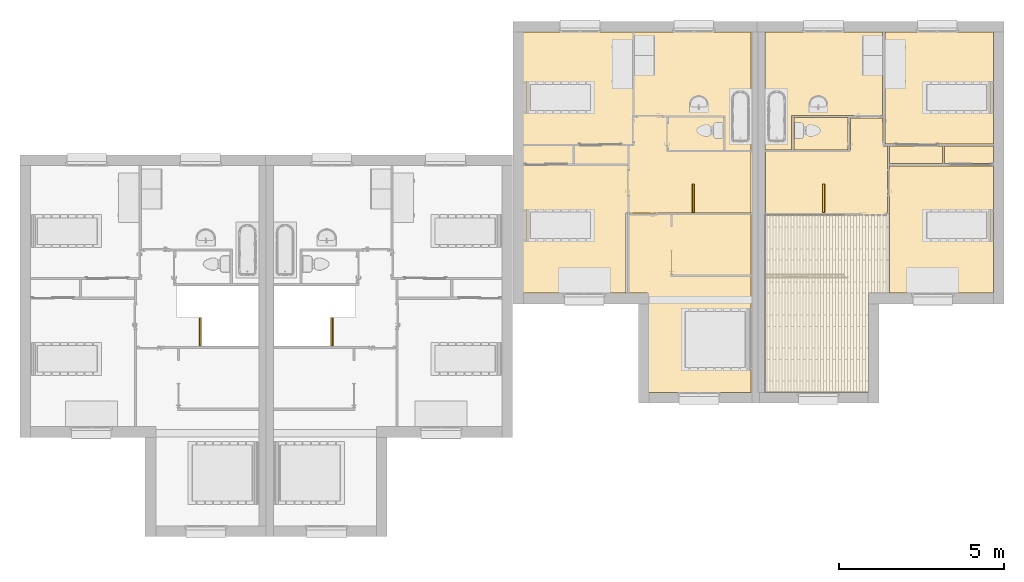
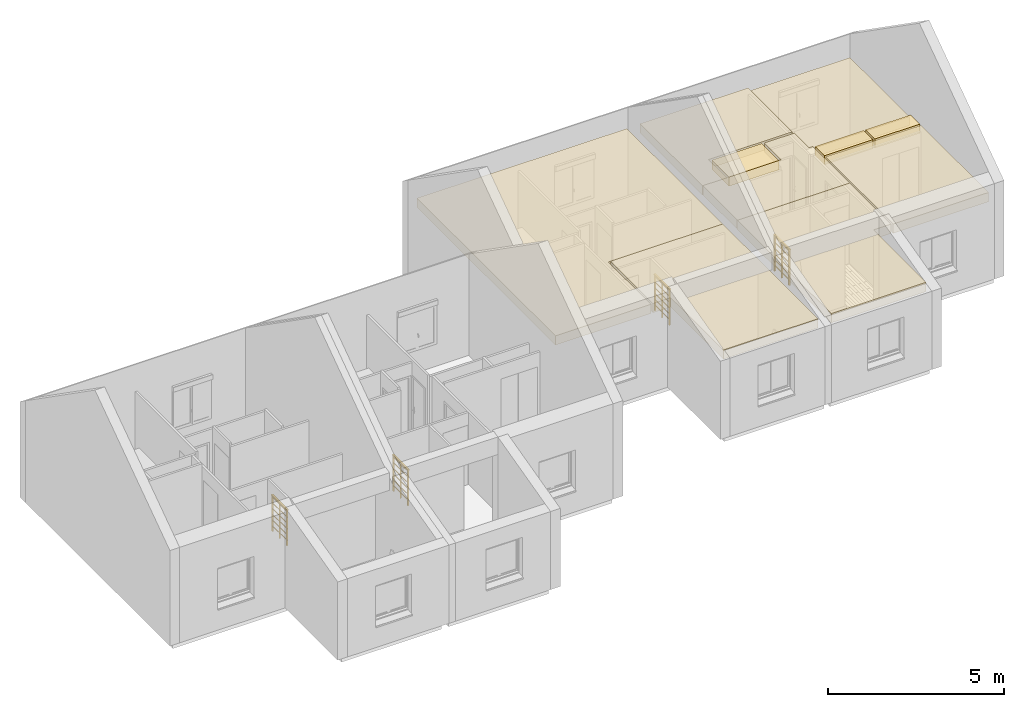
# One storey, part 41 of 50: 10 coverings, 4 railings.
"""IFC2X3 building model written with IfcOpenShell, lengths in metres."""

from ifc_helpers import new_model, entity, si_unit, converted_unit, derived_unit, direction, frame, frame_2d, origin, origin_2d_with_axis, place, context, subcontext, project, spatial, polyline, rectangle, circle, outline, extrude, material, material_list, layer, layer_set, layer_usage, element, save


model = new_model("IFC2X3")

# Units and contexts
model_context = context("Model", 3, precision=1e-05, world=origin(), true_north=direction((6.12303176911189e-17, 1.0)))
context_of_model = context(None, 3, precision=1e-05, world=origin(), true_north=direction((6.12303176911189e-17, 1.0)))
body_context = subcontext(model_context, "Body", "Model", "MODEL_VIEW")
ifc_project = project(units=[si_unit("LENGTHUNIT", "METRE"), si_unit("AREAUNIT", "SQUARE_METRE"), si_unit("VOLUMEUNIT", "CUBIC_METRE"), converted_unit("PLANEANGLEUNIT", "DEGREE", entity("IfcRatioMeasure", 0.0174532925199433), si_unit("PLANEANGLEUNIT", "RADIAN"), dimensions=[0, 0, 0, 0, 0, 0, 0]), si_unit("MASSUNIT", "GRAM", prefix="KILO"), si_unit("TIMEUNIT", "SECOND"), si_unit("FREQUENCYUNIT", "HERTZ"), si_unit("THERMODYNAMICTEMPERATUREUNIT", "DEGREE_CELSIUS"), derived_unit("THERMALTRANSMITTANCEUNIT", [(si_unit("MASSUNIT", "GRAM", prefix="KILO"), 1), (si_unit("THERMODYNAMICTEMPERATUREUNIT", "KELVIN"), -1), (si_unit("TIMEUNIT", "SECOND"), -3)]), derived_unit("VOLUMETRICFLOWRATEUNIT", [(si_unit("LENGTHUNIT", "METRE"), 3), (si_unit("TIMEUNIT", "SECOND"), -1)]), si_unit("ELECTRICCURRENTUNIT", "AMPERE"), si_unit("ELECTRICVOLTAGEUNIT", "VOLT"), si_unit("POWERUNIT", "WATT"), si_unit("FORCEUNIT", "NEWTON", prefix="KILO"), si_unit("ILLUMINANCEUNIT", "LUX"), si_unit("LUMINOUSFLUXUNIT", "LUMEN"), si_unit("LUMINOUSINTENSITYUNIT", "CANDELA"), si_unit("PRESSUREUNIT", "PASCAL")], contexts=[model_context, context_of_model])

# Site, building, storey
site_placement = place(None, origin())
site = spatial("IfcSite", under=ifc_project, at=site_placement, Name="Surface", CompositionType="ELEMENT")
building_placement = place(site_placement, origin())
building = spatial("IfcBuilding", under=site, at=building_placement, CompositionType="ELEMENT")
storey_placement = place(building_placement, frame((0.0, 0.0, 2.82)))
storey = spatial("IfcBuildingStorey", under=building, at=storey_placement, Name="ETAGE", CompositionType="ELEMENT", Elevation=2.82)

# Coverings
ifc_material_1 = material(Name="Isolant")
ifc_layer_1 = layer(ifc_material_1, 0.3)
ifc_material_2 = material(Name="Faux-Plafond par Défaut")
ifc_layer_2 = layer(ifc_material_2, 0.02)
ifc_layer_set = layer_set([ifc_layer_1, ifc_layer_2], Name="Plafond composé:Plafond avec isolation")
ifc_layer_usage_1 = layer_usage(ifc_layer_set, "AXIS3", "NEGATIVE", 0.0)
covering_1_placement = place(storey_placement, origin())
element("IfcCovering", 1, at=covering_1_placement, inside=storey, material=ifc_layer_usage_1, Name="Plafond composé:Plafond avec isolation", ObjectType="Plafond composé:Plafond avec isolation", PredefinedType="CEILING", context=body_context, shape_type="SweptSolid", body=[
    extrude(outline(polyline([(-4.45666666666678, -3.3488419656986), (3.44333333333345, -3.3488419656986), (3.44333333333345, -0.210579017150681), (1.01333333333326, -0.210579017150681), (1.01333333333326, 3.55942098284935), (-4.45666666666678, 3.55942098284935), (-4.45666666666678, -3.3488419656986)])), frame((79.9373647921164, 87.690857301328, 2.5), z_axis=(0.0, 0.0, 1.0), x_axis=(0.0, -1.0, 0.0)), (0.0, 0.0, 1.0), 0.32),
])
ifc_layer_usage_2 = layer_usage(ifc_layer_set, "AXIS3", "NEGATIVE", 0.0)
covering_2_placement = place(storey_placement, origin())
element("IfcCovering", 2, at=covering_2_placement, inside=storey, material=ifc_layer_usage_2, Name="Plafond composé:Plafond avec isolation", ObjectType="Plafond composé:Plafond avec isolation", PredefinedType="CEILING", context=body_context, shape_type="SweptSolid", body=[
    extrude(outline(polyline([(-2.62000000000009, -1.42596113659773), (-0.189999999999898, -1.42596113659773), (-0.189999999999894, -0.84596113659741), (2.80999999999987, -0.845961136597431), (2.8099999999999, 2.27192227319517), (-2.62000000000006, 2.27192227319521), (-2.62000000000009, -1.42596113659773)])), frame((81.2227469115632, 84.0575239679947, 2.5), z_axis=(0.0, 0.0, 1.0), x_axis=(0.0, -1.0, 0.0)), (0.0, 0.0, 1.0), 0.32),
])
ifc_layer_usage_3 = layer_usage(ifc_layer_set, "AXIS3", "NEGATIVE", 0.0)
covering_3_placement = place(storey_placement, origin())
element("IfcCovering", 3, at=covering_3_placement, inside=storey, material=ifc_layer_usage_3, Name="Plafond composé:Plafond avec isolation", ObjectType="Plafond composé:Plafond avec isolation", PredefinedType="CEILING", context=body_context, shape_type="SweptSolid", body=[
    extrude(outline(polyline([(-2.02777314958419, -1.45096113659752), (1.53554629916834, -1.45096113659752), (1.53554629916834, -0.650577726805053), (0.492226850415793, -0.650577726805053), (0.492226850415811, 2.10153886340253), (-2.02777314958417, 2.10153886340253), (-2.02777314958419, -1.45096113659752)])), frame((85.3773635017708, 90.1197508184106, 2.52), z_axis=(0.0, 0.0, 1.0), x_axis=(0.0, -1.0, 0.0)), (0.0, 0.0, 1.0), 0.32),
])
ifc_layer_usage_4 = layer_usage(ifc_layer_set, "AXIS3", "NEGATIVE", 0.0)
covering_4_placement = place(storey_placement, origin())
element("IfcCovering", 4, at=covering_4_placement, inside=storey, material=ifc_layer_usage_4, Name="Plafond composé:Plafond avec isolation", ObjectType="Plafond composé:Plafond avec isolation", PredefinedType="CEILING", context=body_context, shape_type="SweptSolid", body=[
    extrude(rectangle(XDim=3.28614635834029, YDim=3.38000000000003, at=frame_2d((-8.65973959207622e-15, 1.73194791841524e-14), x_axis=(1.0, 0.0))), frame((89.1919755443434, 90.4575239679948, 2.4)), (0.0, 0.0, 1.0), 0.32),
])
ifc_layer_usage_5 = layer_usage(ifc_layer_set, "AXIS3", "NEGATIVE", 0.0)
covering_5_placement = place(storey_placement, origin())
element("IfcCovering", 5, at=covering_5_placement, inside=storey, material=ifc_layer_usage_5, Name="Plafond composé:Plafond avec isolation", ObjectType="Plafond composé:Plafond avec isolation", PredefinedType="CEILING", context=body_context, shape_type="SweptSolid", body=[
    extrude(rectangle(XDim=3.1382629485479, YDim=3.84999999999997, at=origin_2d_with_axis()), frame((89.2659172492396, 86.1725239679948, 2.5), z_axis=(0.0, 0.0, 1.0), x_axis=(-1.0, 0.0, 0.0)), (0.0, 0.0, 1.0), 0.32),
])
ifc_layer_usage_6 = layer_usage(ifc_layer_set, "AXIS3", "NEGATIVE", 0.0)
covering_6_placement = place(storey_placement, origin())
element("IfcCovering", 6, at=covering_6_placement, inside=storey, material=ifc_layer_usage_6, Name="Plafond composé:Plafond avec isolation", ObjectType="Plafond composé:Plafond avec isolation", PredefinedType="CEILING", context=body_context, shape_type="SweptSolid", body=[
    extrude(rectangle(XDim=1.47663147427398, YDim=0.530000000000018, at=frame_2d((-8.65973959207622e-15, 0.0), x_axis=(1.0, 0.0))), frame((90.0967329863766, 88.4325239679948, 2.5), z_axis=(0.0, 0.0, 1.0), x_axis=(-1.0, 0.0, 0.0)), (0.0, 0.0, 1.0), 0.32),
])
ifc_layer_usage_7 = layer_usage(ifc_layer_set, "AXIS3", "NEGATIVE", 0.0)
covering_7_placement = place(storey_placement, origin())
element("IfcCovering", 7, at=covering_7_placement, inside=storey, material=ifc_layer_usage_7, Name="Plafond composé:Plafond avec isolation", ObjectType="Plafond composé:Plafond avec isolation", PredefinedType="CEILING", context=body_context, shape_type="SweptSolid", body=[
    extrude(rectangle(XDim=0.530000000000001, YDim=1.59163147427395, at=origin_2d_with_axis()), frame((88.4926015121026, 88.4325239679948, 2.5), z_axis=(0.0, 0.0, 1.0), x_axis=(0.0, 1.0, 0.0)), (0.0, 0.0, 1.0), 0.32),
])
ifc_layer_usage_8 = layer_usage(ifc_layer_set, "AXIS3", "NEGATIVE", 0.0)
covering_8_placement = place(storey_placement, origin())
element("IfcCovering", 8, at=covering_8_placement, inside=storey, material=ifc_layer_usage_8, Name="Plafond composé:Plafond avec isolation", ObjectType="Plafond composé:Plafond avec isolation", PredefinedType="CEILING", context=body_context, shape_type="SweptSolid", body=[
    extrude(rectangle(XDim=1.64166575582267, YDim=0.973319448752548, at=frame_2d((8.65973959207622e-15, 8.65973959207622e-15), x_axis=(1.0, 0.0))), frame((85.6176186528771, 89.0708642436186, 2.52), z_axis=(0.0, 0.0, 1.0), x_axis=(-1.0, 0.0, 0.0)), (0.0, 0.0, 1.0), 0.32),
])
ifc_layer_usage_9 = layer_usage(ifc_layer_set, "AXIS3", "NEGATIVE", 0.0)
covering_9_placement = place(storey_placement, origin())
element("IfcCovering", 9, at=covering_9_placement, inside=storey, material=ifc_layer_usage_9, Name="Plafond composé:Plafond avec isolation", ObjectType="Plafond composé:Plafond avec isolation", PredefinedType="CEILING", context=body_context, shape_type="SweptSolid", body=[
    extrude(outline(polyline([(-1.42333333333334, -2.57333333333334), (2.27166666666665, -2.57333333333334), (2.27166666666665, 2.78666666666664), (-0.848333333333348, 2.78666666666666), (-0.848333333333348, -0.213333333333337), (-1.42333333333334, -0.213333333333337), (-1.42333333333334, -2.57333333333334)])), frame((86.2003274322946, 84.0362711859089, 2.52), z_axis=(0.0, 0.0, 1.0), x_axis=(-1.0, 0.0, 0.0)), (0.0, 0.0, 1.0), 0.32),
])
ifc_layer_usage_10 = layer_usage(ifc_layer_set, "AXIS3", "NEGATIVE", 0.0)
covering_10_placement = place(storey_placement, origin())
element("IfcCovering", 10, at=covering_10_placement, inside=storey, material=ifc_layer_usage_10, Name="Plafond composé:Plafond avec isolation", ObjectType="Plafond composé:Plafond avec isolation", PredefinedType="CEILING", context=body_context, shape_type="SweptSolid", body=[
    extrude(outline(polyline([(-0.122291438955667, -0.224170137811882), (2.45770856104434, -0.224170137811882), (2.45770856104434, 1.75251041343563), (-1.23312568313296, 1.75251041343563), (-1.23312568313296, -0.34417013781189), (-1.10229143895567, -0.34417013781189), (-1.10229143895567, -1.18417013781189), (-0.122291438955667, -1.18417013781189), (-0.122291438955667, -0.224170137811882)])), frame((86.3936600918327, 88.3600343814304, 2.52), z_axis=(0.0, 0.0, 1.0), x_axis=(-1.0, 0.0, 0.0)), (0.0, 0.0, 1.0), 0.32),
])

# Railings
ifc_material_3 = material(Name="noir acier")
ifc_material_4 = material(Name="Finition Peinture Grise")
ifc_material_list_1 = material_list([ifc_material_3, ifc_material_4])
railing_1_placement = place(storey_placement, origin())
element("IfcRailing", 11, at=railing_1_placement, inside=storey, material=ifc_material_list_1, Name="Garde-corps:Type Bateau 1,25 m", ObjectType="Garde-corps:Type Bateau 1,25 m", PredefinedType="NOTDEFINED", context=body_context, shape_type="SweptSolid", body=[
    extrude(rectangle(XDim=0.050000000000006, YDim=0.0139999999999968, at=frame_2d((-8.6614743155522e-15, 0.0), x_axis=(1.0, 0.0))), frame((85.6989505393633, 87.5199433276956, -0.100000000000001), z_axis=(0.0, 0.0, 1.0), x_axis=(-1.0, 0.0, 0.0)), (0.0, 0.0, 1.0), 1.21984653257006),
    extrude(rectangle(XDim=0.050000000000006, YDim=0.0139999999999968, at=frame_2d((-8.6614743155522e-15, 0.0), x_axis=(1.0, 0.0))), frame((85.6989505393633, 87.1199433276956, -0.100000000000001), z_axis=(0.0, 0.0, 1.0), x_axis=(-1.0, 0.0, 0.0)), (0.0, 0.0, 1.0), 1.21984653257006),
    extrude(rectangle(XDim=0.050000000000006, YDim=0.0139999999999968, at=frame_2d((-8.6614743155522e-15, 0.0), x_axis=(1.0, 0.0))), frame((85.6989505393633, 86.7199433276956, -0.100000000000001), z_axis=(0.0, 0.0, 1.0), x_axis=(-1.0, 0.0, 0.0)), (0.0, 0.0, 1.0), 1.21984653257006),
    extrude(rectangle(XDim=0.050000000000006, YDim=0.0139999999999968, at=frame_2d((-8.6614743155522e-15, 0.0), x_axis=(1.0, 0.0))), frame((85.6989505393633, 87.5461836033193, -0.100000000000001), z_axis=(0.0, 0.0, 1.0), x_axis=(-1.0, 0.0, 0.0)), (0.0, 0.0, 1.0), 1.21984653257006),
    extrude(rectangle(XDim=0.050000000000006, YDim=0.0139999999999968, at=frame_2d((-8.6614743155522e-15, 0.0), x_axis=(1.0, 0.0))), frame((85.6989505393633, 86.6937030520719, -0.100000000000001), z_axis=(0.0, 0.0, 1.0), x_axis=(-1.0, 0.0, 0.0)), (0.0, 0.0, 1.0), 1.21984653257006),
    extrude(outline(polyline([(-0.01090678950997, -0.0384843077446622), (0.00177588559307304, -0.0384843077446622), (0.0141514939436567, -0.0318300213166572), (0.0240801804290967, -0.019672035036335), (0.0298451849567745, -0.0041125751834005), (0.0304496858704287, 0.012157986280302), (0.0257891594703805, 0.0263263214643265), (0.0166694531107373, 0.0359425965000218), (0.010906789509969, 0.0384843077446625), (-0.00177588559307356, 0.0384843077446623), (-0.0141514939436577, 0.0318300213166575), (-0.0240801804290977, 0.0196720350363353), (-0.0298451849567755, 0.00411257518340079), (-0.0304496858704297, -0.0121579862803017), (-0.0257891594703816, -0.0263263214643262), (-0.0166694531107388, -0.0359425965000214), (-0.01090678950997, -0.0384843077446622)])), frame((85.6984515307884, 86.6825239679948, 1.15), z_axis=(0.0, 1.0, 0.0), x_axis=(0.272669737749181, 0.0, 0.962107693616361)), (0.0, 0.0, 1.0), 0.872480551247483),
    extrude(circle(Radius=0.015, at=origin_2d_with_axis()), frame((85.6984515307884, 86.6825239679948, 1.085), z_axis=(0.0, 1.0, 0.0), x_axis=(1.0, 0.0, 0.0)), (0.0, 0.0, 1.0), 0.872480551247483),
    extrude(circle(Radius=0.015, at=origin_2d_with_axis()), frame((85.6984515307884, 86.6825239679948, 0.885), z_axis=(0.0, 1.0, 0.0), x_axis=(1.0, 0.0, 0.0)), (0.0, 0.0, 1.0), 0.872480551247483),
    extrude(circle(Radius=0.015, at=origin_2d_with_axis()), frame((85.6984515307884, 86.6825239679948, 0.685), z_axis=(0.0, 1.0, 0.0), x_axis=(1.0, 0.0, 0.0)), (0.0, 0.0, 1.0), 0.872480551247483),
    extrude(circle(Radius=0.015, at=origin_2d_with_axis()), frame((85.6984515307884, 86.6825239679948, 0.485), z_axis=(0.0, 1.0, 0.0), x_axis=(1.0, 0.0, 0.0)), (0.0, 0.0, 1.0), 0.872480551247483),
    extrude(circle(Radius=0.015, at=origin_2d_with_axis()), frame((85.6984515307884, 86.6825239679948, 0.285), z_axis=(0.0, 1.0, 0.0), x_axis=(1.0, 0.0, 0.0)), (0.0, 0.0, 1.0), 0.872480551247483),
    extrude(circle(Radius=0.015, at=origin_2d_with_axis()), frame((85.6984515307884, 86.6825239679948, 0.0850000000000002), z_axis=(0.0, 1.0, 0.0), x_axis=(1.0, 0.0, 0.0)), (0.0, 0.0, 1.0), 0.872480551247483),
])
ifc_material_list_2 = material_list([ifc_material_3, ifc_material_4])
railing_2_placement = place(storey_placement, origin())
element("IfcRailing", 12, at=railing_2_placement, inside=storey, material=ifc_material_list_2, Name="Garde-corps:Type Bateau 1,25 m", ObjectType="Garde-corps:Type Bateau 1,25 m", PredefinedType="NOTDEFINED", context=body_context, shape_type="SweptSolid", body=[
    extrude(rectangle(XDim=0.0499999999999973, YDim=0.0139999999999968, at=frame_2d((4.32986979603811e-15, 0.0), x_axis=(1.0, 0.0))), frame((70.8267911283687, 83.4801760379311, -0.100000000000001), z_axis=(0.0, 0.0, 1.0), x_axis=(-1.0, 0.0, 0.0)), (0.0, 0.0, 1.0), 1.21984653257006),
    extrude(rectangle(XDim=0.0499999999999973, YDim=0.0139999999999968, at=frame_2d((4.32986979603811e-15, 0.0), x_axis=(1.0, 0.0))), frame((70.8267911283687, 83.0801760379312, -0.100000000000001), z_axis=(0.0, 0.0, 1.0), x_axis=(-1.0, 0.0, 0.0)), (0.0, 0.0, 1.0), 1.21984653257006),
    extrude(rectangle(XDim=0.0499999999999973, YDim=0.0139999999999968, at=frame_2d((4.32986979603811e-15, 0.0), x_axis=(1.0, 0.0))), frame((70.8267911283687, 82.6801760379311, -0.100000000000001), z_axis=(0.0, 0.0, 1.0), x_axis=(-1.0, 0.0, 0.0)), (0.0, 0.0, 1.0), 1.21984653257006),
    extrude(rectangle(XDim=0.0499999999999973, YDim=0.0139999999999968, at=frame_2d((4.32986979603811e-15, 0.0), x_axis=(1.0, 0.0))), frame((70.8267911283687, 83.5064163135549, -0.100000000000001), z_axis=(0.0, 0.0, 1.0), x_axis=(-1.0, 0.0, 0.0)), (0.0, 0.0, 1.0), 1.21984653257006),
    extrude(rectangle(XDim=0.0499999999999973, YDim=0.0139999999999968, at=frame_2d((4.32986979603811e-15, 0.0), x_axis=(1.0, 0.0))), frame((70.8267911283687, 82.6539357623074, -0.100000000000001), z_axis=(0.0, 0.0, 1.0), x_axis=(-1.0, 0.0, 0.0)), (0.0, 0.0, 1.0), 1.21984653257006),
    extrude(outline(polyline([(-0.0109067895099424, -0.038484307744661), (0.00177588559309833, -0.038484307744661), (0.0141514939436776, -0.0318300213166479), (0.0240801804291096, -0.0196720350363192), (0.0298451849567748, -0.00411257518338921), (0.0304496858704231, 0.0121579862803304), (0.0257891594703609, 0.0263263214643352), (0.016669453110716, 0.0359425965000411), (0.0109067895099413, 0.0384843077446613), (-0.00177588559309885, 0.0384843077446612), (-0.0141514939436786, 0.0318300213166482), (-0.0240801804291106, 0.0196720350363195), (-0.0298451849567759, 0.0041125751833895), (-0.0304496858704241, -0.0121579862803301), (-0.0257891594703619, -0.0263263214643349), (-0.0166694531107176, -0.0359425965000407), (-0.0109067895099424, -0.038484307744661)])), frame((70.8262921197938, 82.6427566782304, 1.15), z_axis=(0.0, 1.0, 0.0), x_axis=(0.272669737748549, 0.0, 0.96210769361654)), (0.0, 0.0, 1.0), 0.872480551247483),
    extrude(circle(Radius=0.015, at=origin_2d_with_axis()), frame((70.8262921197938, 82.6427566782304, 1.085), z_axis=(0.0, 1.0, 0.0), x_axis=(1.0, 0.0, 0.0)), (0.0, 0.0, 1.0), 0.872480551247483),
    extrude(circle(Radius=0.015, at=origin_2d_with_axis()), frame((70.8262921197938, 82.6427566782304, 0.885), z_axis=(0.0, 1.0, 0.0), x_axis=(1.0, 0.0, 0.0)), (0.0, 0.0, 1.0), 0.872480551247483),
    extrude(circle(Radius=0.015, at=origin_2d_with_axis()), frame((70.8262921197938, 82.6427566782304, 0.685), z_axis=(0.0, 1.0, 0.0), x_axis=(1.0, 0.0, 0.0)), (0.0, 0.0, 1.0), 0.872480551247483),
    extrude(circle(Radius=0.015, at=origin_2d_with_axis()), frame((70.8262921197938, 82.6427566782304, 0.485), z_axis=(0.0, 1.0, 0.0), x_axis=(1.0, 0.0, 0.0)), (0.0, 0.0, 1.0), 0.872480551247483),
    extrude(circle(Radius=0.015, at=origin_2d_with_axis()), frame((70.8262921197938, 82.6427566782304, 0.285), z_axis=(0.0, 1.0, 0.0), x_axis=(1.0, 0.0, 0.0)), (0.0, 0.0, 1.0), 0.872480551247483),
    extrude(circle(Radius=0.015, at=origin_2d_with_axis()), frame((70.8262921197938, 82.6427566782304, 0.0850000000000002), z_axis=(0.0, 1.0, 0.0), x_axis=(1.0, 0.0, 0.0)), (0.0, 0.0, 1.0), 0.872480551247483),
])
ifc_material_list_3 = material_list([ifc_material_3, ifc_material_4])
railing_3_placement = place(storey_placement, origin())
element("IfcRailing", 13, at=railing_3_placement, inside=storey, material=ifc_material_list_3, Name="Garde-corps:Type Bateau 1,25 m", ObjectType="Garde-corps:Type Bateau 1,25 m", PredefinedType="NOTDEFINED", context=body_context, shape_type="SweptSolid", body=[
    extrude(rectangle(XDim=0.0139999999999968, YDim=0.0499999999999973, at=frame_2d((0.0, -4.32986979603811e-15), x_axis=(1.0, 0.0))), frame((66.842461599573, 83.4801760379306, -0.1), z_axis=(0.0, 0.0, 1.0), x_axis=(0.0, -1.0, 0.0)), (0.0, 0.0, 1.0), 1.21984653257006),
    extrude(rectangle(XDim=0.0139999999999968, YDim=0.0499999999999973, at=frame_2d((0.0, -4.32986979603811e-15), x_axis=(1.0, 0.0))), frame((66.842461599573, 83.0801760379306, -0.1), z_axis=(0.0, 0.0, 1.0), x_axis=(0.0, -1.0, 0.0)), (0.0, 0.0, 1.0), 1.21984653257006),
    extrude(rectangle(XDim=0.0139999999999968, YDim=0.0499999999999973, at=frame_2d((0.0, -4.32986979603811e-15), x_axis=(1.0, 0.0))), frame((66.842461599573, 82.6801760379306, -0.1), z_axis=(0.0, 0.0, 1.0), x_axis=(0.0, -1.0, 0.0)), (0.0, 0.0, 1.0), 1.21984653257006),
    extrude(rectangle(XDim=0.0139999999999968, YDim=0.0499999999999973, at=frame_2d((0.0, -4.32986979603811e-15), x_axis=(1.0, 0.0))), frame((66.842461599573, 83.5064163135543, -0.1), z_axis=(0.0, 0.0, 1.0), x_axis=(0.0, -1.0, 0.0)), (0.0, 0.0, 1.0), 1.21984653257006),
    extrude(rectangle(XDim=0.0139999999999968, YDim=0.0499999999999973, at=frame_2d((0.0, -4.32986979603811e-15), x_axis=(1.0, 0.0))), frame((66.842461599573, 82.6539357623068, -0.1), z_axis=(0.0, 0.0, 1.0), x_axis=(0.0, -1.0, 0.0)), (0.0, 0.0, 1.0), 1.21984653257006),
    extrude(outline(polyline([(-0.0109067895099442, -0.0384843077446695), (0.00177588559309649, -0.0384843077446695), (0.0141514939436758, -0.0318300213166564), (0.0240801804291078, -0.0196720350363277), (0.029845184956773, -0.00411257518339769), (0.0304496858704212, 0.0121579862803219), (0.025789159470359, 0.0263263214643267), (0.0166694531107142, 0.0359425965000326), (0.0109067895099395, 0.0384843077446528), (-0.00177588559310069, 0.0384843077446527), (-0.0141514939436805, 0.0318300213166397), (-0.0240801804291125, 0.019672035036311), (-0.0298451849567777, 0.00411257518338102), (-0.0304496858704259, -0.0121579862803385), (-0.0257891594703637, -0.0263263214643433), (-0.0166694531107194, -0.0359425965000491), (-0.0109067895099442, -0.0384843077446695)])), frame((66.8429606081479, 82.6427566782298, 1.15), z_axis=(0.0, 1.0, 0.0), x_axis=(-0.272669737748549, 0.0, -0.96210769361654)), (0.0, 0.0, 1.0), 0.872480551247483),
    extrude(circle(Radius=0.015, at=origin_2d_with_axis()), frame((66.8429606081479, 82.6427566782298, 1.085), z_axis=(0.0, 1.0, 0.0), x_axis=(-1.0, 0.0, 0.0)), (0.0, 0.0, 1.0), 0.872480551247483),
    extrude(circle(Radius=0.015, at=origin_2d_with_axis()), frame((66.8429606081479, 82.6427566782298, 0.885), z_axis=(0.0, 1.0, 0.0), x_axis=(-1.0, 0.0, 0.0)), (0.0, 0.0, 1.0), 0.872480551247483),
    extrude(circle(Radius=0.015, at=origin_2d_with_axis()), frame((66.8429606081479, 82.6427566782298, 0.685), z_axis=(0.0, 1.0, 0.0), x_axis=(-1.0, 0.0, 0.0)), (0.0, 0.0, 1.0), 0.872480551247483),
    extrude(circle(Radius=0.015, at=origin_2d_with_axis()), frame((66.8429606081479, 82.6427566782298, 0.485), z_axis=(0.0, 1.0, 0.0), x_axis=(-1.0, 0.0, 0.0)), (0.0, 0.0, 1.0), 0.872480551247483),
    extrude(circle(Radius=0.015, at=origin_2d_with_axis()), frame((66.8429606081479, 82.6427566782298, 0.285), z_axis=(0.0, 1.0, 0.0), x_axis=(-1.0, 0.0, 0.0)), (0.0, 0.0, 1.0), 0.872480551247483),
    extrude(circle(Radius=0.015, at=origin_2d_with_axis()), frame((66.8429606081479, 82.6427566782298, 0.0850000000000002), z_axis=(0.0, 1.0, 0.0), x_axis=(-1.0, 0.0, 0.0)), (0.0, 0.0, 1.0), 0.872480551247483),
])
ifc_material_list_4 = material_list([ifc_material_3, ifc_material_4])
railing_4_placement = place(storey_placement, origin())
element("IfcRailing", 14, at=railing_4_placement, inside=storey, material=ifc_material_list_4, Name="Garde-corps:Type Bateau 1,25 m", ObjectType="Garde-corps:Type Bateau 1,25 m", PredefinedType="NOTDEFINED", context=body_context, shape_type="SweptSolid", body=[
    extrude(rectangle(XDim=0.0139999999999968, YDim=0.050000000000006, at=frame_2d((0.0, 8.6614743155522e-15), x_axis=(1.0, 0.0))), frame((81.7588541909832, 87.5199433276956, -0.1), z_axis=(0.0, 0.0, 1.0), x_axis=(0.0, -1.0, 0.0)), (0.0, 0.0, 1.0), 1.21984653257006),
    extrude(rectangle(XDim=0.0139999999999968, YDim=0.050000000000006, at=frame_2d((0.0, 8.6614743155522e-15), x_axis=(1.0, 0.0))), frame((81.7588541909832, 87.1199433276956, -0.1), z_axis=(0.0, 0.0, 1.0), x_axis=(0.0, -1.0, 0.0)), (0.0, 0.0, 1.0), 1.21984653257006),
    extrude(rectangle(XDim=0.0139999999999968, YDim=0.050000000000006, at=frame_2d((0.0, 8.6614743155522e-15), x_axis=(1.0, 0.0))), frame((81.7588541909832, 86.7199433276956, -0.1), z_axis=(0.0, 0.0, 1.0), x_axis=(0.0, -1.0, 0.0)), (0.0, 0.0, 1.0), 1.21984653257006),
    extrude(rectangle(XDim=0.0139999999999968, YDim=0.050000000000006, at=frame_2d((0.0, 8.6614743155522e-15), x_axis=(1.0, 0.0))), frame((81.7588541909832, 87.5461836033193, -0.1), z_axis=(0.0, 0.0, 1.0), x_axis=(0.0, -1.0, 0.0)), (0.0, 0.0, 1.0), 1.21984653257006),
    extrude(rectangle(XDim=0.0139999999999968, YDim=0.050000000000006, at=frame_2d((0.0, 8.6614743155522e-15), x_axis=(1.0, 0.0))), frame((81.7588541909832, 86.6937030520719, -0.1), z_axis=(0.0, 0.0, 1.0), x_axis=(0.0, -1.0, 0.0)), (0.0, 0.0, 1.0), 1.21984653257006),
    extrude(outline(polyline([(-0.0109067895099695, -0.0384843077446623), (0.00177588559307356, -0.0384843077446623), (0.0141514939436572, -0.0318300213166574), (0.0240801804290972, -0.0196720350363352), (0.029845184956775, -0.00411257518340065), (0.0304496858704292, 0.0121579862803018), (0.025789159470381, 0.0263263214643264), (0.0166694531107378, 0.0359425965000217), (0.0109067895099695, 0.0384843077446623), (-0.00177588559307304, 0.0384843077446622), (-0.0141514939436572, 0.0318300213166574), (-0.0240801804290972, 0.0196720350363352), (-0.029845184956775, 0.00411257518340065), (-0.0304496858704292, -0.0121579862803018), (-0.025789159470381, -0.0263263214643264), (-0.0166694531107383, -0.0359425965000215), (-0.0109067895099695, -0.0384843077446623)])), frame((81.7593531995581, 86.6825239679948, 1.15), z_axis=(0.0, 1.0, 0.0), x_axis=(-0.272669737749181, 0.0, -0.962107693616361)), (0.0, 0.0, 1.0), 0.872480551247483),
    extrude(circle(Radius=0.015, at=origin_2d_with_axis()), frame((81.7593531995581, 86.6825239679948, 1.085), z_axis=(0.0, 1.0, 0.0), x_axis=(-1.0, 0.0, 0.0)), (0.0, 0.0, 1.0), 0.872480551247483),
    extrude(circle(Radius=0.015, at=origin_2d_with_axis()), frame((81.7593531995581, 86.6825239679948, 0.885), z_axis=(0.0, 1.0, 0.0), x_axis=(-1.0, 0.0, 0.0)), (0.0, 0.0, 1.0), 0.872480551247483),
    extrude(circle(Radius=0.015, at=origin_2d_with_axis()), frame((81.7593531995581, 86.6825239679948, 0.685), z_axis=(0.0, 1.0, 0.0), x_axis=(-1.0, 0.0, 0.0)), (0.0, 0.0, 1.0), 0.872480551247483),
    extrude(circle(Radius=0.015, at=origin_2d_with_axis()), frame((81.7593531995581, 86.6825239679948, 0.485), z_axis=(0.0, 1.0, 0.0), x_axis=(-1.0, 0.0, 0.0)), (0.0, 0.0, 1.0), 0.872480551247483),
    extrude(circle(Radius=0.015, at=origin_2d_with_axis()), frame((81.7593531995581, 86.6825239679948, 0.285), z_axis=(0.0, 1.0, 0.0), x_axis=(-1.0, 0.0, 0.0)), (0.0, 0.0, 1.0), 0.872480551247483),
    extrude(circle(Radius=0.015, at=origin_2d_with_axis()), frame((81.7593531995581, 86.6825239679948, 0.0850000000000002), z_axis=(0.0, 1.0, 0.0), x_axis=(-1.0, 0.0, 0.0)), (0.0, 0.0, 1.0), 0.872480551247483),
])

save(model, "model.ifc")
